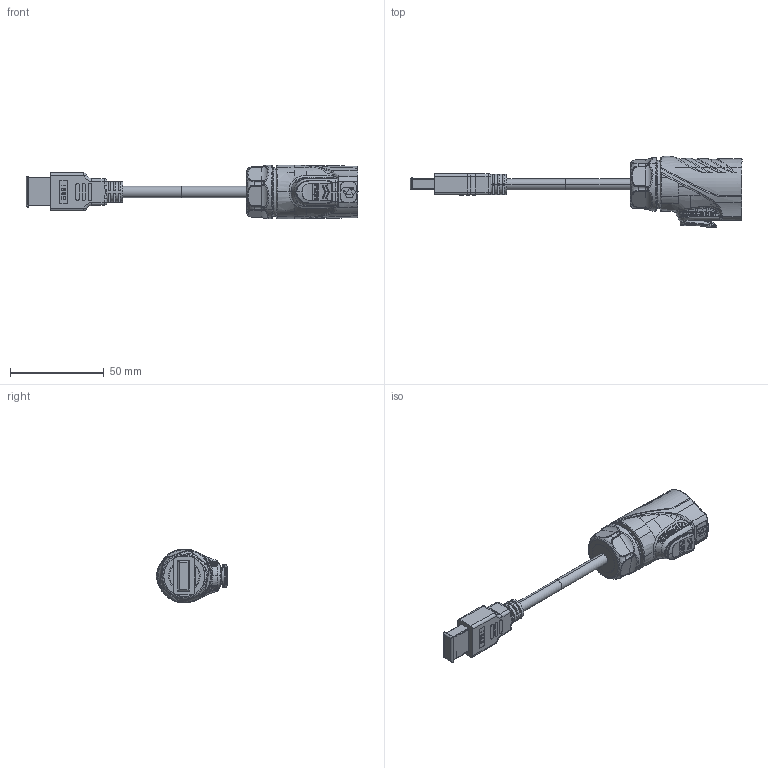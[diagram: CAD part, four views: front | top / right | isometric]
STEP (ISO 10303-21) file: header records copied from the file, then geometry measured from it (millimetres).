
FILE_DESCRIPTION (( 'STEP AP203' ), '1' );
FILE_NAME ('PLG20 HDMI脣芛盄旰.STEP', '2025-03-21T00:56:51', ( '' ), ( '' ), 'SwSTEP 2.0', 'SolidWorks 2024', '' );
FILE_SCHEMA (( 'CONFIG_CONTROL_DESIGN' ));
Length unit declared in the file: millimetre
Products named in the file (1): PLG20 HDMI插头线束
Bounding box: 177.4 x 38.21 x 28.77 mm (x, y, z)
Surface area: 32800 mm2 (no closed solid volume)
Topology: 0 solids, 31 shells, 2177 faces, 5841 edges, 3725 vertices
Faces by surface type: plane 888, bspline 851, cylinder 273, torus 98, cone 57, sphere 10
Full cylindrical faces by diameter (mm): 21.969 x3
Entity records: 130911 total; most frequent: CARTESIAN_POINT 86039, ORIENTED_EDGE 11413, EDGE_CURVE 5808, DIRECTION 5790, VERTEX_POINT 3722, B_SPLINE_CURVE_WITH_KNOTS 2895, EDGE_LOOP 2277, ADVANCED_FACE 2175
